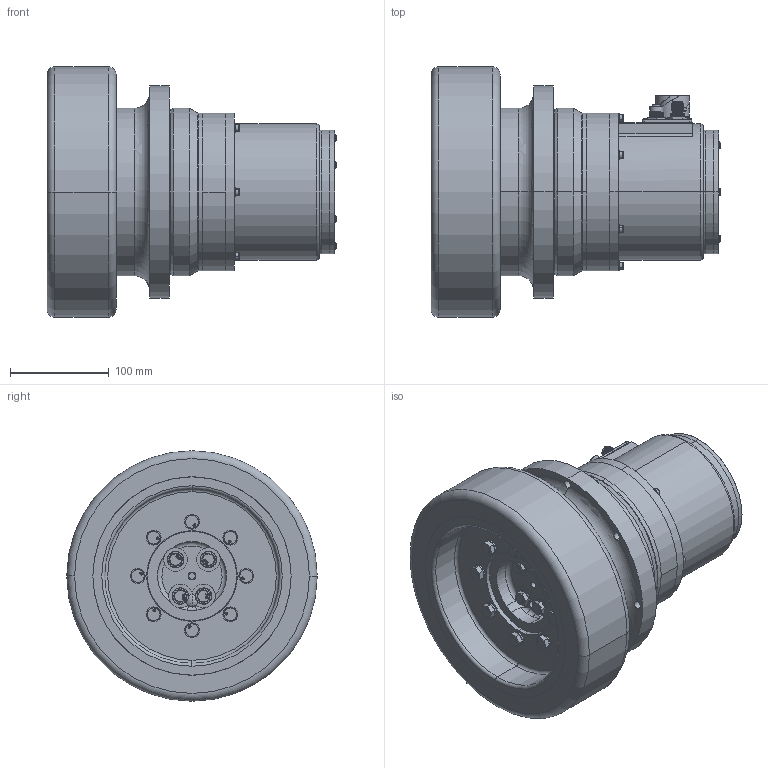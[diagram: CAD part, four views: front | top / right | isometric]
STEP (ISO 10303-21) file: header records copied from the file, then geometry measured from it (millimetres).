
FILE_DESCRIPTION (( 'STEP AP214' ), '1' );
FILE_NAME ('9003648.STEP', '2024-06-28T15:55:29', ( '' ), ( '' ), 'SwSTEP 2.0', 'SolidWorks 2019', '' );
FILE_SCHEMA (( 'AUTOMOTIVE_DESIGN' ));
Length unit declared in the file: inch
Products named in the file (1): 9003648
Bounding box: 294.01 x 254 x 254 mm (x, y, z)
Surface area: 473252.9 mm2 (no closed solid volume)
Topology: 0 solids, 122 shells, 937 faces, 4489 edges, 3623 vertices
Faces by surface type: cylinder 353, plane 276, cone 119, bspline 86, torus 69, sphere 34
Entity records: 81457 total; most frequent: CARTESIAN_POINT 36715, ORIENTED_EDGE 6131, DIRECTION 6117, EDGE_CURVE 4488, VERTEX_POINT 3623, AXIS2_PLACEMENT_3D 2279, VECTOR 1559, LINE 1559
